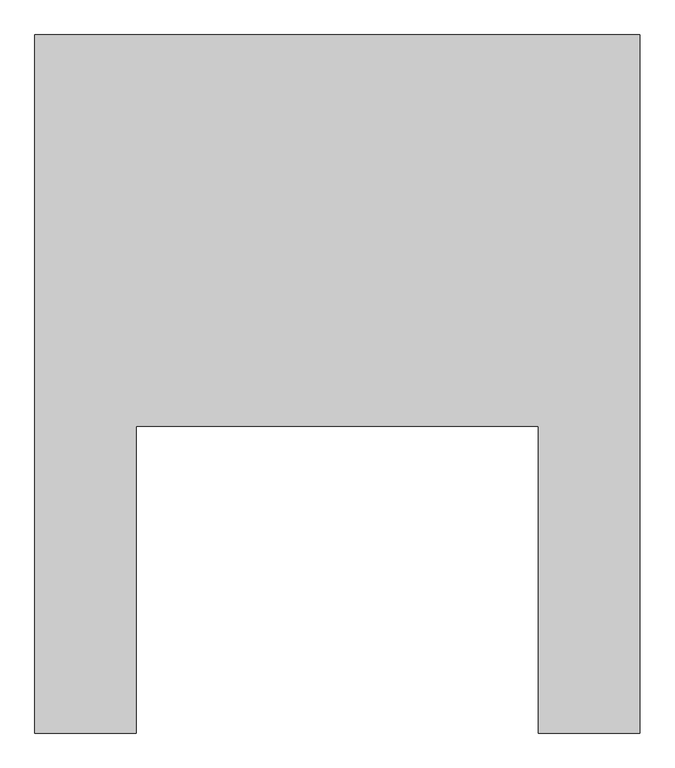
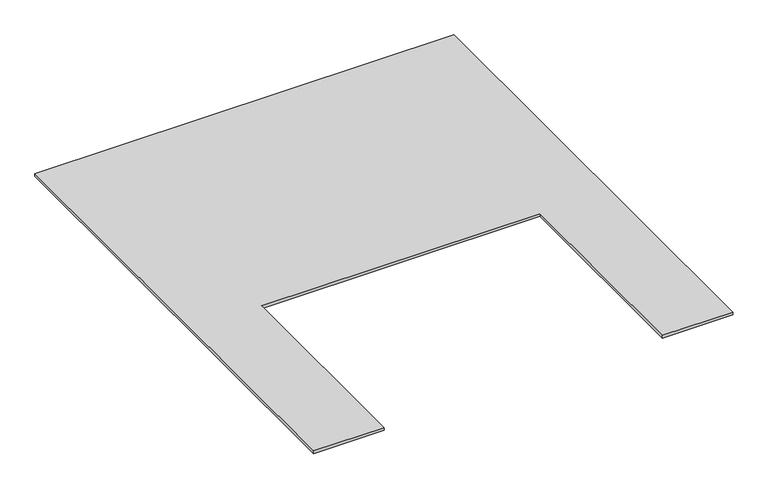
"""IFC4 building model written with IfcOpenShell, lengths in millimetres: proxy geometry, Фиброцементная плита LATONIT с антивандальным покрытием_1 прямоугольное отверстие : 10 мм."""

import ifcopenshell
import ifcopenshell.guid

model = None  # the IFC model being written
_history = None  # IfcOwnerHistory: only IFC2X3 demands one
_inside = {}  # id of a spatial element -> (the spatial element, [elements in it])
_under = {}  # id of a project, library or spatial element -> (it, [spatial elements below it])
_declared = {}  # id of a project -> (the project, [libraries it declares])
_typed = {}  # id of a type object -> (the type object, [elements of that type])
_made_of = {}  # id of a material, layer set ... -> (it, [elements and type objects made of it])


def new_model(schema):
    """Start an empty IFC model of exactly this schema.

    Asked for "IFC4X3", IfcOpenShell would pick the latest addendum, in which some entities
    have other attributes; the version numbers below select the first issue.
    IFC2X3 requires an IfcOwnerHistory on every rooted entity: one is made here for all.
    """
    global model, _history
    if schema == "IFC4X3":
        model = ifcopenshell.file(schema_version=(4, 3, 0, 0))
    else:
        model = ifcopenshell.file(schema=schema)
    _inside.clear()
    _under.clear()
    _declared.clear()
    _typed.clear()
    _made_of.clear()
    _history = None
    if model.schema == "IFC2X3":
        org = make("IfcOrganization", Name="unknown")
        user = make(
            "IfcPersonAndOrganization",
            ThePerson=make("IfcPerson", FamilyName="unknown"),
            TheOrganization=org,
        )
        app = make(
            "IfcApplication",
            ApplicationDeveloper=org,
            Version="unknown",
            ApplicationFullName="unknown",
            ApplicationIdentifier="unknown",
        )
        _history = make(
            "IfcOwnerHistory",
            OwningUser=user,
            OwningApplication=app,
            ChangeAction="ADDED",
            CreationDate=0,
        )
    return model


def make(cls, **values):
    """One entity of the class cls with the attributes given. An attribute that is None is left unset."""
    return model.create_entity(
        cls, **{name: value for name, value in values.items() if value is not None}
    )


def rooted(cls, **values):
    """An entity with a GlobalId (a new one), such as an element, a storey or a relation."""
    return make(cls, GlobalId=ifcopenshell.guid.new(), OwnerHistory=_history, **values)


def si_unit(unit_type, name, prefix=None):
    """IfcSIUnit, for example si_unit("LENGTHUNIT", "METRE", prefix="MILLI")."""
    return make("IfcSIUnit", UnitType=unit_type, Prefix=prefix, Name=name)


def assignment(units):
    """IfcUnitAssignment: the units of a project."""
    return None if units is None else make("IfcUnitAssignment", Units=units)


def point(xyz):
    """IfcCartesianPoint."""
    return None if xyz is None else make("IfcCartesianPoint", Coordinates=xyz)


def direction(xyz):
    """IfcDirection."""
    return None if xyz is None else make("IfcDirection", DirectionRatios=xyz)


def frame(location, z_axis=None, x_axis=None):
    """IfcAxis2Placement3D, a coordinate frame: its origin and axes. An axis left out is left unset."""
    return make(
        "IfcAxis2Placement3D",
        Location=point(location),
        Axis=direction(z_axis),
        RefDirection=direction(x_axis),
    )


def origin():
    """The frame at (0, 0, 0) with its axes left unset."""
    return frame((0.0, 0.0, 0.0))


def place(relative_to, where):
    """IfcLocalPlacement: puts the frame where relative to a parent placement (None: the world)."""
    return make(
        "IfcLocalPlacement", PlacementRelTo=relative_to, RelativePlacement=where
    )


def context(
    kind, dimensions, precision=None, world=None, true_north=None, identifier=None
):
    """IfcGeometricRepresentationContext, for example the 3D "Model" context."""
    return make(
        "IfcGeometricRepresentationContext",
        ContextIdentifier=identifier,
        ContextType=kind,
        CoordinateSpaceDimension=dimensions,
        Precision=precision,
        WorldCoordinateSystem=world,
        TrueNorth=true_north,
    )


def project(units=None, contexts=None):
    """IfcProject with its units and contexts."""
    return rooted(
        "IfcProject",
        Name="project",
        RepresentationContexts=contexts,
        UnitsInContext=assignment(units),
    )


def spatial(cls, under=None, at=None, **own):
    """A site, building, storey or space (cls), placed at a placement, below another one or the project."""
    s = rooted(cls, ObjectPlacement=at, **own)
    if under is not None:
        _under.setdefault(under.id(), (under, []))[1].append(s)
    return s


def polyline(points):
    """IfcPolyline through the points."""
    return make("IfcPolyline", Points=[point(p) for p in points])


def outline(outer, holes=None, kind="AREA"):
    """IfcArbitraryClosedProfileDef: a profile drawn as a closed curve; with holes, ...WithVoids."""
    if holes is None:
        return make("IfcArbitraryClosedProfileDef", ProfileType=kind, OuterCurve=outer)
    return make(
        "IfcArbitraryProfileDefWithVoids",
        ProfileType=kind,
        OuterCurve=outer,
        InnerCurves=holes,
    )


def extrude(swept, where, along, depth):
    """IfcExtrudedAreaSolid: the profile swept, set in the frame where, extruded along a direction by depth."""
    return make(
        "IfcExtrudedAreaSolid",
        SweptArea=swept,
        Position=where,
        ExtrudedDirection=direction(along),
        Depth=depth,
    )


def shape(context_of_items, identifier, shape_type, items):
    """IfcShapeRepresentation: the items that make up one representation, for example the "Body"."""
    return make(
        "IfcShapeRepresentation",
        ContextOfItems=context_of_items,
        RepresentationIdentifier=identifier,
        RepresentationType=shape_type,
        Items=items,
    )


def source(mapping_origin, context_of_items, identifier, shape_type, items):
    """IfcRepresentationMap: a shape defined once, which mapped items show again and again."""
    return make(
        "IfcRepresentationMap",
        MappingOrigin=mapping_origin,
        MappedRepresentation=shape(context_of_items, identifier, shape_type, items),
    )


def transform(
    local_origin,
    x_axis=None,
    y_axis=None,
    z_axis=None,
    scale=None,
    scale2=None,
    scale3=None,
    uniform=True,
):
    """IfcCartesianTransformationOperator3D, or its non-uniform kind. x_axis, y_axis, z_axis: its Axis1, 2, 3."""
    if uniform:
        return make(
            "IfcCartesianTransformationOperator3D",
            Axis1=direction(x_axis),
            Axis2=direction(y_axis),
            LocalOrigin=point(local_origin),
            Scale=scale,
            Axis3=direction(z_axis),
        )
    return make(
        "IfcCartesianTransformationOperator3DnonUniform",
        Axis1=direction(x_axis),
        Axis2=direction(y_axis),
        LocalOrigin=point(local_origin),
        Scale=scale,
        Axis3=direction(z_axis),
        Scale2=scale2,
        Scale3=scale3,
    )


def mapped(mapping_source, mapping_target):
    """IfcMappedItem: shows the shape of a source again, moved by a transform."""
    return make(
        "IfcMappedItem", MappingSource=mapping_source, MappingTarget=mapping_target
    )


def made_of(thing, what):
    """Note that an element or type object is made of a material, layer set ...; save() writes the relation."""
    if what is not None:
        _made_of.setdefault(what.id(), (what, []))[1].append(thing)
    return thing


def element(
    cls,
    number,
    at=None,
    inside=None,
    cuts=None,
    type_object=None,
    material=None,
    context=None,
    identifier="Body",
    shape_type=None,
    held_by="IfcProductDefinitionShape",
    body=None,
    shapes=None,
    **own,
):
    """One element of the class cls, such as IfcWall. Its Tag is "e" and its number.

    at: its placement. inside: the storey or other place that contains it. cuts: it is an
    opening in that element (IfcRelVoidsElement). A single representation is given by context,
    identifier, shape_type and body (its items); several are given by shapes. held_by: the class
    of the entity that holds the representations. save() writes the other relations.
    """
    e = rooted(cls, Tag="e%d" % number, ObjectPlacement=at, **own)
    if body is not None:
        shapes = [shape(context, identifier, shape_type, body)]
    if shapes is not None:
        e.Representation = make(held_by, Representations=shapes)
    if inside is not None:
        _inside.setdefault(inside.id(), (inside, []))[1].append(e)
    if cuts is not None:
        rooted(
            "IfcRelVoidsElement", RelatingBuildingElement=cuts, RelatedOpeningElement=e
        )
    if type_object is not None:
        _typed.setdefault(type_object.id(), (type_object, []))[1].append(e)
    return made_of(e, material)


def aggregate(whole, parts):
    """IfcRelAggregates: a whole, such as a stair, and the parts it consists of."""
    return rooted("IfcRelAggregates", RelatingObject=whole, RelatedObjects=parts)


def save(model, path):
    """Write the relations noted so far, then the file.

    IfcRelAggregates (storeys below a building ...), IfcRelContainedInSpatialStructure (elements
    in a storey), IfcRelDefinesByType, IfcRelAssociatesMaterial and IfcRelDeclares: one each for
    every whole, place, type object, material and project.
    """
    for whole, parts in _under.values():
        aggregate(whole, parts)
    for where, things in _inside.values():
        rooted(
            "IfcRelContainedInSpatialStructure",
            RelatedElements=things,
            RelatingStructure=where,
        )
    for kind, things in _typed.values():
        rooted("IfcRelDefinesByType", RelatedObjects=things, RelatingType=kind)
    for what, things in _made_of.values():
        rooted("IfcRelAssociatesMaterial", RelatedObjects=things, RelatingMaterial=what)
    for by, libraries in _declared.values():
        rooted("IfcRelDeclares", RelatingContext=by, RelatedDefinitions=libraries)
    model.write(path)


def generic_models_47fed5b4(model_context):
    return source(origin(), model_context, "Body", "SweptSolid", [
        extrude(outline(polyline([(1500.0, 1730.0), (1500.0, 0.0), (1248.5, 0.0), (1248.5, 760.0), (251.5, 760.0), (251.5, 0.0), (0.0, 0.0), (0.0, 1730.0), (1500.0, 1730.0)])), frame((0.0, 0.0, 240.0), z_axis=(0.0, 0.0, 1.0), x_axis=(1.0, 0.0, 0.0)), (0.0, 0.0, 1.0), 10.0),
    ])


if __name__ == "__main__":
    model = new_model("IFC4")
    model_context = context("Model", 3, world=origin())
    ifc_project = project(units=[si_unit("LENGTHUNIT", "METRE", prefix="MILLI")], contexts=[model_context])
    site = spatial("IfcSite", under=ifc_project)
    building = spatial("IfcBuilding", under=site)
    placement = place(None, origin())
    generic_models_shape = generic_models_47fed5b4(model_context)
    element("IfcBuildingElementProxy", 1, Name="Фиброцементная плита LATONIT с антивандальным покрытием_1 прямоугольное отверстие : 10 мм", ObjectType="Фиброцементная плита LATONIT с антивандальным покрытием_1 прямоугольное отверстие : 10 мм", at=placement, inside=building, context=model_context, shape_type="MappedRepresentation", body=[
        mapped(generic_models_shape, transform((0.0, 0.0, 0.0), x_axis=(1.0, 0.0, 0.0), y_axis=(0.0, 1.0, 0.0), z_axis=(0.0, 0.0, 1.0))),
    ])
    save(model, "model.ifc")
